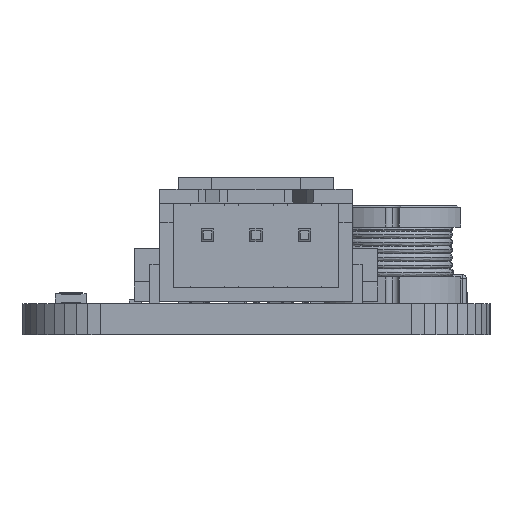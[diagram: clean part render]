
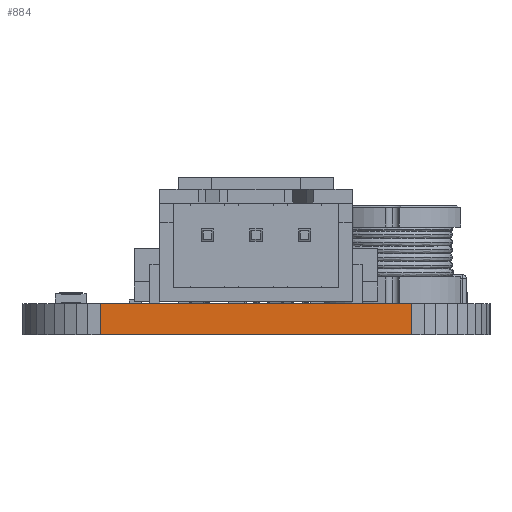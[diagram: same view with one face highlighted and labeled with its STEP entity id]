
A CAD part, front view. The second image highlights one B-rep face of the part: STEP entity #884.
In plain terms, the highlighted planar face has unit normal (-0.001, -1, 0).
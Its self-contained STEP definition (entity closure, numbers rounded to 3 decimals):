
#135 = PLANE('',#136);
#136 = AXIS2_PLACEMENT_3D('',#137,#138,#139);
#137 = CARTESIAN_POINT('',(-12.012,-7.,1.591));
#138 = DIRECTION('',(0.,0.,-1.));
#139 = DIRECTION('',(-1.,0.,0.));
#189 = PLANE('',#190);
#190 = AXIS2_PLACEMENT_3D('',#191,#192,#193);
#191 = CARTESIAN_POINT('',(-12.012,-7.,0.));
#192 = DIRECTION('',(0.,0.,-1.));
#193 = DIRECTION('',(-1.,0.,0.));
#776 = PLANE('',#777);
#777 = AXIS2_PLACEMENT_3D('',#778,#779,#780);
#778 = CARTESIAN_POINT('',(-8.628,-10.963,0.));
#779 = DIRECTION('',(0.059,0.998,0.));
#780 = DIRECTION('',(0.998,-0.059,0.));
#814 = VERTEX_POINT('',#815);
#815 = CARTESIAN_POINT('',(-8.,-11.,1.591));
#836 = EDGE_CURVE('',#837,#814,#839,.T.);
#837 = VERTEX_POINT('',#838);
#838 = CARTESIAN_POINT('',(-8.,-11.,0.));
#839 = SURFACE_CURVE('',#840,(#844,#851),.PCURVE_S1.);
#840 = LINE('',#841,#842);
#841 = CARTESIAN_POINT('',(-8.,-11.,0.));
#842 = VECTOR('',#843,1.);
#843 = DIRECTION('',(0.,0.,1.));
#844 = PCURVE('',#776,#845);
#845 = DEFINITIONAL_REPRESENTATION('',(#846),#850);
#846 = LINE('',#847,#848);
#847 = CARTESIAN_POINT('',(0.629,0.));
#848 = VECTOR('',#849,1.);
#849 = DIRECTION('',(0.,-1.));
#850 = ( GEOMETRIC_REPRESENTATION_CONTEXT(2) 
PARAMETRIC_REPRESENTATION_CONTEXT() REPRESENTATION_CONTEXT('2D SPACE',''
  ) );
#851 = PCURVE('',#852,#857);
#852 = PLANE('',#853);
#853 = AXIS2_PLACEMENT_3D('',#854,#855,#856);
#854 = CARTESIAN_POINT('',(-8.,-11.,0.));
#855 = DIRECTION('',(0.001,1.,0.));
#856 = DIRECTION('',(1.,-0.001,0.));
#857 = DEFINITIONAL_REPRESENTATION('',(#858),#862);
#858 = LINE('',#859,#860);
#859 = CARTESIAN_POINT('',(0.,0.));
#860 = VECTOR('',#861,1.);
#861 = DIRECTION('',(0.,-1.));
#862 = ( GEOMETRIC_REPRESENTATION_CONTEXT(2) 
PARAMETRIC_REPRESENTATION_CONTEXT() REPRESENTATION_CONTEXT('2D SPACE',''
  ) );
#884 = ADVANCED_FACE('',(#885),#852,.F.);
#885 = FACE_BOUND('',#886,.F.);
#886 = EDGE_LOOP('',(#887,#888,#911,#939));
#887 = ORIENTED_EDGE('',*,*,#836,.T.);
#888 = ORIENTED_EDGE('',*,*,#889,.T.);
#889 = EDGE_CURVE('',#814,#890,#892,.T.);
#890 = VERTEX_POINT('',#891);
#891 = CARTESIAN_POINT('',(8.,-11.012,1.591));
#892 = SURFACE_CURVE('',#893,(#897,#904),.PCURVE_S1.);
#893 = LINE('',#894,#895);
#894 = CARTESIAN_POINT('',(-8.,-11.,1.591));
#895 = VECTOR('',#896,1.);
#896 = DIRECTION('',(1.,-0.001,0.));
#897 = PCURVE('',#852,#898);
#898 = DEFINITIONAL_REPRESENTATION('',(#899),#903);
#899 = LINE('',#900,#901);
#900 = CARTESIAN_POINT('',(0.,-1.591));
#901 = VECTOR('',#902,1.);
#902 = DIRECTION('',(1.,0.));
#903 = ( GEOMETRIC_REPRESENTATION_CONTEXT(2) 
PARAMETRIC_REPRESENTATION_CONTEXT() REPRESENTATION_CONTEXT('2D SPACE',''
  ) );
#904 = PCURVE('',#135,#905);
#905 = DEFINITIONAL_REPRESENTATION('',(#906),#910);
#906 = LINE('',#907,#908);
#907 = CARTESIAN_POINT('',(-4.012,-4.));
#908 = VECTOR('',#909,1.);
#909 = DIRECTION('',(-1.,-0.001));
#910 = ( GEOMETRIC_REPRESENTATION_CONTEXT(2) 
PARAMETRIC_REPRESENTATION_CONTEXT() REPRESENTATION_CONTEXT('2D SPACE',''
  ) );
#911 = ORIENTED_EDGE('',*,*,#912,.F.);
#912 = EDGE_CURVE('',#913,#890,#915,.T.);
#913 = VERTEX_POINT('',#914);
#914 = CARTESIAN_POINT('',(8.,-11.012,0.));
#915 = SURFACE_CURVE('',#916,(#920,#927),.PCURVE_S1.);
#916 = LINE('',#917,#918);
#917 = CARTESIAN_POINT('',(8.,-11.012,0.));
#918 = VECTOR('',#919,1.);
#919 = DIRECTION('',(0.,0.,1.));
#920 = PCURVE('',#852,#921);
#921 = DEFINITIONAL_REPRESENTATION('',(#922),#926);
#922 = LINE('',#923,#924);
#923 = CARTESIAN_POINT('',(16.,0.));
#924 = VECTOR('',#925,1.);
#925 = DIRECTION('',(0.,-1.));
#926 = ( GEOMETRIC_REPRESENTATION_CONTEXT(2) 
PARAMETRIC_REPRESENTATION_CONTEXT() REPRESENTATION_CONTEXT('2D SPACE',''
  ) );
#927 = PCURVE('',#928,#933);
#928 = PLANE('',#929);
#929 = AXIS2_PLACEMENT_3D('',#930,#931,#932);
#930 = CARTESIAN_POINT('',(8.,-11.012,0.));
#931 = DIRECTION('',(-0.078,0.997,0.));
#932 = DIRECTION('',(0.997,0.078,0.));
#933 = DEFINITIONAL_REPRESENTATION('',(#934),#938);
#934 = LINE('',#935,#936);
#935 = CARTESIAN_POINT('',(0.,0.));
#936 = VECTOR('',#937,1.);
#937 = DIRECTION('',(0.,-1.));
#938 = ( GEOMETRIC_REPRESENTATION_CONTEXT(2) 
PARAMETRIC_REPRESENTATION_CONTEXT() REPRESENTATION_CONTEXT('2D SPACE',''
  ) );
#939 = ORIENTED_EDGE('',*,*,#940,.F.);
#940 = EDGE_CURVE('',#837,#913,#941,.T.);
#941 = SURFACE_CURVE('',#942,(#946,#953),.PCURVE_S1.);
#942 = LINE('',#943,#944);
#943 = CARTESIAN_POINT('',(-8.,-11.,0.));
#944 = VECTOR('',#945,1.);
#945 = DIRECTION('',(1.,-0.001,0.));
#946 = PCURVE('',#852,#947);
#947 = DEFINITIONAL_REPRESENTATION('',(#948),#952);
#948 = LINE('',#949,#950);
#949 = CARTESIAN_POINT('',(0.,0.));
#950 = VECTOR('',#951,1.);
#951 = DIRECTION('',(1.,0.));
#952 = ( GEOMETRIC_REPRESENTATION_CONTEXT(2) 
PARAMETRIC_REPRESENTATION_CONTEXT() REPRESENTATION_CONTEXT('2D SPACE',''
  ) );
#953 = PCURVE('',#189,#954);
#954 = DEFINITIONAL_REPRESENTATION('',(#955),#959);
#955 = LINE('',#956,#957);
#956 = CARTESIAN_POINT('',(-4.012,-4.));
#957 = VECTOR('',#958,1.);
#958 = DIRECTION('',(-1.,-0.001));
#959 = ( GEOMETRIC_REPRESENTATION_CONTEXT(2) 
PARAMETRIC_REPRESENTATION_CONTEXT() REPRESENTATION_CONTEXT('2D SPACE',''
  ) );
